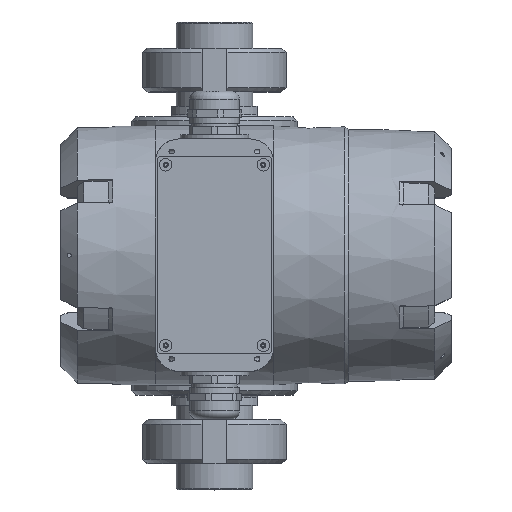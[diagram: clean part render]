
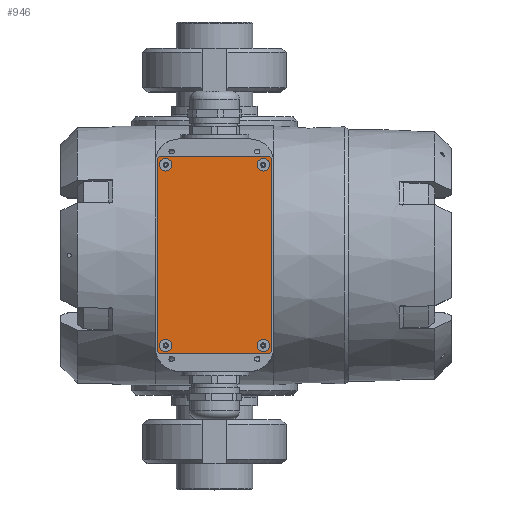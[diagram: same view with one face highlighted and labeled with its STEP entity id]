
A CAD part, top view. The second image highlights one B-rep face of the part: STEP entity #946.
In plain terms, the highlighted planar face has unit normal (0, 0, 1).
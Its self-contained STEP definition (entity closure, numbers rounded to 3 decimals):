
#946=ADVANCED_FACE('',(#9012,#9014,#9016,#9018,#9020),#9022,.T.);
#9012=FACE_BOUND('',#9013,.T.);
#9013=EDGE_LOOP('',(#24463,#24464,#24465,#24466,#24467,#24468,#24469,#24470));
#9014=FACE_BOUND('',#9015,.T.);
#9015=EDGE_LOOP('',(#24471));
#9016=FACE_BOUND('',#9017,.T.);
#9017=EDGE_LOOP('',(#24472));
#9018=FACE_BOUND('',#9019,.T.);
#9019=EDGE_LOOP('',(#24473));
#9020=FACE_BOUND('',#9021,.T.);
#9021=EDGE_LOOP('',(#24474));
#9022=PLANE('',#9023);
#9023=AXIS2_PLACEMENT_3D('',#9024,#9025,#9026);
#9024=CARTESIAN_POINT('',(0.,0.,232.034));
#9025=DIRECTION('',(0.,0.,1.));
#9026=DIRECTION('',(0.,1.,0.));
#24463=ORIENTED_EDGE('',*,*,#28299,.F.);
#24464=ORIENTED_EDGE('',*,*,#28285,.T.);
#24465=ORIENTED_EDGE('',*,*,#28288,.F.);
#24466=ORIENTED_EDGE('',*,*,#28290,.T.);
#24467=ORIENTED_EDGE('',*,*,#28292,.F.);
#24468=ORIENTED_EDGE('',*,*,#28294,.T.);
#24469=ORIENTED_EDGE('',*,*,#28296,.F.);
#24470=ORIENTED_EDGE('',*,*,#28298,.T.);
#24471=ORIENTED_EDGE('',*,*,#28360,.F.);
#24472=ORIENTED_EDGE('',*,*,#28361,.F.);
#24473=ORIENTED_EDGE('',*,*,#28362,.F.);
#24474=ORIENTED_EDGE('',*,*,#28363,.F.);
#28285=EDGE_CURVE('',#30466,#30464,#30467,.T.);
#28288=EDGE_CURVE('',#30469,#30464,#30471,.F.);
#28290=EDGE_CURVE('',#30469,#30472,#30474,.T.);
#28292=EDGE_CURVE('',#30475,#30472,#30477,.F.);
#28294=EDGE_CURVE('',#30475,#30478,#30480,.T.);
#28296=EDGE_CURVE('',#30481,#30478,#30483,.F.);
#28298=EDGE_CURVE('',#30481,#30484,#30486,.T.);
#28299=EDGE_CURVE('',#30466,#30484,#30487,.F.);
#28360=EDGE_CURVE('',#30588,#30588,#30589,.T.);
#28361=EDGE_CURVE('',#30590,#30590,#30591,.T.);
#28362=EDGE_CURVE('',#30592,#30592,#30593,.T.);
#28363=EDGE_CURVE('',#30594,#30594,#30595,.T.);
#30464=VERTEX_POINT('',#35610);
#30466=VERTEX_POINT('',#35614);
#30467=LINE('',#35615,#35616);
#30469=VERTEX_POINT('',#35621);
#30471=LINE('',#35625,#35626);
#30472=VERTEX_POINT('',#35628);
#30474=LINE('',#35632,#35633);
#30475=VERTEX_POINT('',#35635);
#30477=LINE('',#35639,#35640);
#30478=VERTEX_POINT('',#35642);
#30480=LINE('',#35646,#35647);
#30481=VERTEX_POINT('',#35649);
#30483=LINE('',#35653,#35654);
#30484=VERTEX_POINT('',#35656);
#30486=LINE('',#35660,#35661);
#30487=LINE('',#35663,#35664);
#30588=VERTEX_POINT('',#36476);
#30589=CIRCLE('',#36477,3.);
#30590=VERTEX_POINT('',#36481);
#30591=CIRCLE('',#36482,3.);
#30592=VERTEX_POINT('',#36486);
#30593=CIRCLE('',#36487,3.);
#30594=VERTEX_POINT('',#36491);
#30595=CIRCLE('',#36492,3.);
#35610=CARTESIAN_POINT('',(26.5,-47.5,232.034));
#35614=CARTESIAN_POINT('',(-26.5,-47.5,232.034));
#35615=CARTESIAN_POINT('',(-26.5,-47.5,232.034));
#35616=VECTOR('',#35617,1.);
#35617=DIRECTION('',(1.,0.,0.));
#35621=CARTESIAN_POINT('',(27.5,-46.5,232.034));
#35625=CARTESIAN_POINT('',(26.5,-47.5,232.034));
#35626=VECTOR('',#35627,1.);
#35627=DIRECTION('',(0.707,0.707,0.));
#35628=CARTESIAN_POINT('',(27.5,46.5,232.034));
#35632=CARTESIAN_POINT('',(27.5,-46.5,232.034));
#35633=VECTOR('',#35634,1.);
#35634=DIRECTION('',(0.,1.,0.));
#35635=CARTESIAN_POINT('',(26.5,47.5,232.034));
#35639=CARTESIAN_POINT('',(27.5,46.5,232.034));
#35640=VECTOR('',#35641,1.);
#35641=DIRECTION('',(-0.707,0.707,0.));
#35642=CARTESIAN_POINT('',(-26.5,47.5,232.034));
#35646=CARTESIAN_POINT('',(26.5,47.5,232.034));
#35647=VECTOR('',#35648,1.);
#35648=DIRECTION('',(-1.,0.,0.));
#35649=CARTESIAN_POINT('',(-27.5,46.5,232.034));
#35653=CARTESIAN_POINT('',(-26.5,47.5,232.034));
#35654=VECTOR('',#35655,1.);
#35655=DIRECTION('',(-0.707,-0.707,0.));
#35656=CARTESIAN_POINT('',(-27.5,-46.5,232.034));
#35660=CARTESIAN_POINT('',(-27.5,46.5,232.034));
#35661=VECTOR('',#35662,1.);
#35662=DIRECTION('',(0.,-1.,0.));
#35663=CARTESIAN_POINT('',(-27.5,-46.5,232.034));
#35664=VECTOR('',#35665,1.);
#35665=DIRECTION('',(0.707,-0.707,0.));
#36476=CARTESIAN_POINT('',(26.5,-43.5,232.034));
#36477=AXIS2_PLACEMENT_3D('',#36478,#36479,#36480);
#36478=CARTESIAN_POINT('',(23.5,-43.5,232.034));
#36479=DIRECTION('',(0.,0.,1.));
#36480=DIRECTION('',(1.,0.,0.));
#36481=CARTESIAN_POINT('',(-20.5,43.5,232.034));
#36482=AXIS2_PLACEMENT_3D('',#36483,#36484,#36485);
#36483=CARTESIAN_POINT('',(-23.5,43.5,232.034));
#36484=DIRECTION('',(0.,0.,1.));
#36485=DIRECTION('',(1.,0.,0.));
#36486=CARTESIAN_POINT('',(-20.5,-43.5,232.034));
#36487=AXIS2_PLACEMENT_3D('',#36488,#36489,#36490);
#36488=CARTESIAN_POINT('',(-23.5,-43.5,232.034));
#36489=DIRECTION('',(0.,0.,1.));
#36490=DIRECTION('',(1.,0.,0.));
#36491=CARTESIAN_POINT('',(26.5,43.5,232.034));
#36492=AXIS2_PLACEMENT_3D('',#36493,#36494,#36495);
#36493=CARTESIAN_POINT('',(23.5,43.5,232.034));
#36494=DIRECTION('',(0.,0.,1.));
#36495=DIRECTION('',(1.,0.,0.));
